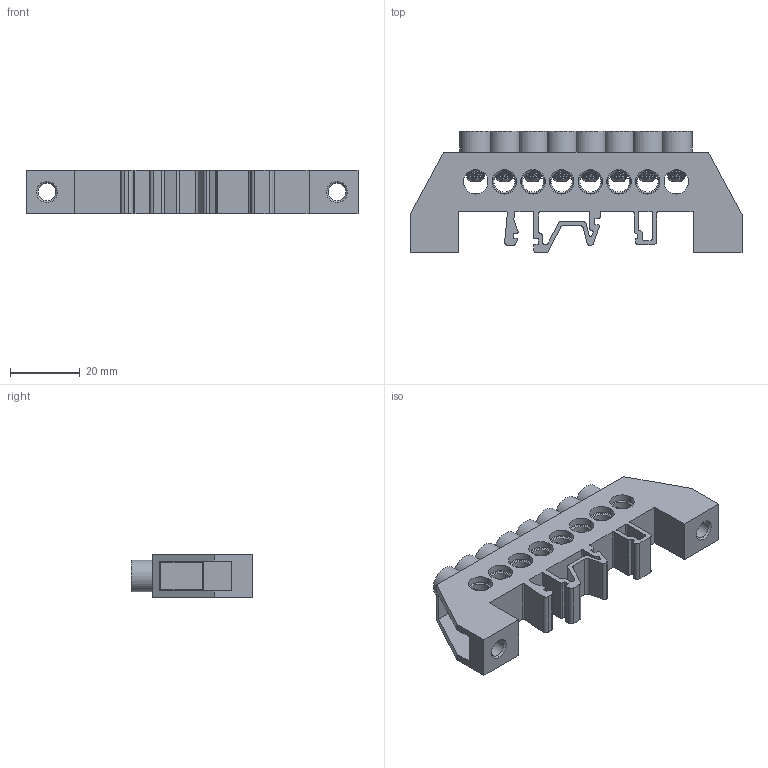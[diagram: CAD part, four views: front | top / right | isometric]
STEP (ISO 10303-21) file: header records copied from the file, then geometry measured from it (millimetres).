
FILE_DESCRIPTION (( 'STEP AP214' ), '1' );
FILE_NAME ('Øèíà íóëåâàÿ â êîìáèíèðîâàííîé èçîëÿöèè 8õ12 8.STEP', '2020-02-06T11:17:41', ( '' ), ( '' ), 'SwSTEP 2.0', 'SolidWorks 2018', '' );
FILE_SCHEMA (( 'AUTOMOTIVE_DESIGN' ));
Length unit declared in the file: millimetre
Products named in the file (4): Âèíò ì5; Øèíà 8õ12 8; Êîðïóñ èçîëÿöèè 8õ12 8; Øèíà íóëåâàÿ â êîìáèíèðîâàííîé èçîëÿöèè 8õ12 8
Assembly tree (10 placements, depth 2):
  Øèíà íóëåâàÿ â êîìáèíèðîâàííîé èçîëÿöèè 8õ12 8
    Êîðïóñ èçîëÿöèè 8õ12 8
    Øèíà 8õ12 8
    Âèíò ì5  x8
Bounding box: 95 x 34.8 x 12.5 mm (x, y, z)
Volume: 18764.3 mm3; surface area: 20443.8 mm2
Topology: 10 solids, 10 shells, 853 faces, 2398 edges, 1556 vertices
Faces by surface type: cylinder 365, plane 292, cone 116, torus 56, bspline 24
Entity records: 13529 total; most frequent: CARTESIAN_POINT 4441, ORIENTED_EDGE 1852, DIRECTION 1837, EDGE_CURVE 926, AXIS2_PLACEMENT_3D 681, VERTEX_POINT 604, LINE 475, VECTOR 475
